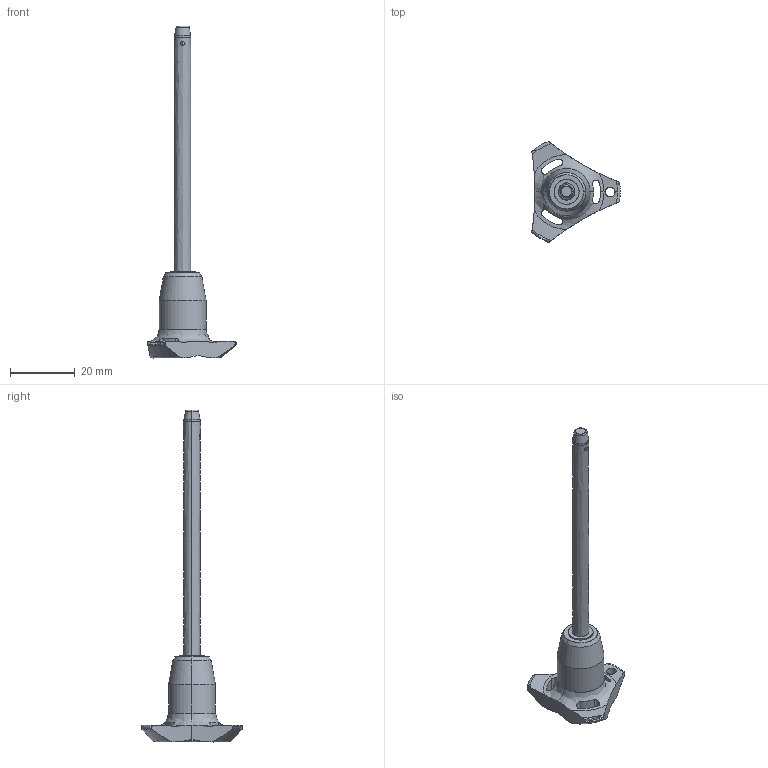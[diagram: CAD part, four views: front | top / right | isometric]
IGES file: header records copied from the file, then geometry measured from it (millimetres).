
Start section: SolidWorks IGES file using analytic representation for surfaces
Global section: file name: C:\Users\ianosborn\Desktop\QR1726_v2\QR1726_v2_20251115_IGES\QR1726.M05-070-T.igs; native system: SolidWorks 2019; preprocessor: SolidWorks 2019; author: IanOsborn; date: 251113.110101; units: millimetre
Bounding box: 27.4 x 31.31 x 102.7 mm (x, y, z)
Surface area: 3608 mm2 (no closed solid volume)
Topology: 0 solids, 0 shells, 69 faces, 1299 edges, 1280 vertices
Faces by surface type: revolution 52, bspline 17
